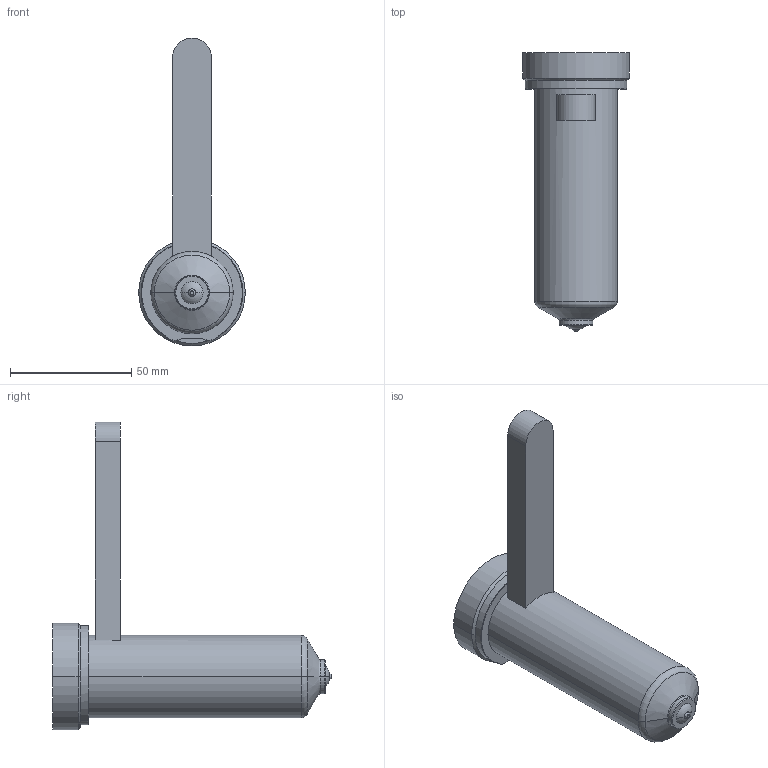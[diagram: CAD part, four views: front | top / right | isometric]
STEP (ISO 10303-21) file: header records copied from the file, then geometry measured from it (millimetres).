
FILE_DESCRIPTION((''),'2;1');
FILE_NAME('EO10_PG-BL_WR_100_COT','2024-02-19T11:10:25',('sundharh'),(''),'CREO PARAMETRIC BY PTC INC, 2023154','CREO PARAMETRIC BY PTC INC, 2023154','');
FILE_SCHEMA(('CONFIG_CONTROL_DESIGN'));
Length unit declared in the file: millimetre
Products named in the file (1): EO10_PG-BL_WR_100_COT
Bounding box: 44 x 115 x 127 mm (x, y, z)
Volume: 120980.8 mm3; surface area: 19317.1 mm2
Topology: 1 solids, 1 shells, 40 faces, 85 edges, 50 vertices
Faces by surface type: cylinder 13, plane 10, torus 9, cone 6, sphere 2
Entity records: 1193 total; most frequent: CARTESIAN_POINT 263, DIRECTION 209, ORIENTED_EDGE 170, AXIS2_PLACEMENT_3D 90, EDGE_CURVE 85, VERTEX_POINT 50, CIRCLE 50, EDGE_LOOP 43
